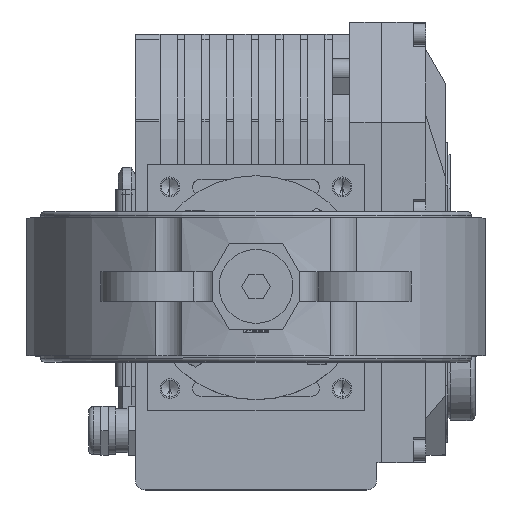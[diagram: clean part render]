
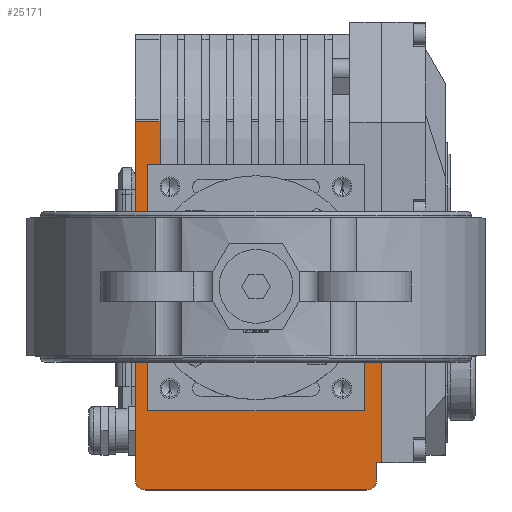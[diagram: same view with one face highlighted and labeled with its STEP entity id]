
A CAD part, top view. The second image highlights one B-rep face of the part: STEP entity #25171.
In plain terms, the highlighted planar face has unit normal (0, 0, 1) as drawn and (0, -1, 0) by its records, which use the part's own axes.
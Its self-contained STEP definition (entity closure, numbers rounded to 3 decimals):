
#18494=DIRECTION('',(1.,0.,0.));
#18495=VECTOR('',#18494,145.5);
#18496=CARTESIAN_POINT('',(-62.,-38.,0.));
#18497=LINE('',#18496,#18495);
#19344=DIRECTION('',(1.,0.,0.));
#19345=VECTOR('',#19344,7.);
#19346=CARTESIAN_POINT('',(-62.,-38.,-98.));
#19347=LINE('',#19346,#19345);
#19605=DIRECTION('',(0.,0.,1.));
#19606=VECTOR('',#19605,7.);
#19607=CARTESIAN_POINT('',(36.,-38.,-100.));
#19608=LINE('',#19607,#19606);
#19609=CARTESIAN_POINT('',(-62.,-38.,-94.));
#19610=DIRECTION('',(0.,-1.,0.));
#19611=DIRECTION('',(-1.,0.,0.));
#19612=AXIS2_PLACEMENT_3D('',#19609,#19610,#19611);
#19614=DIRECTION('',(0.,0.,-1.));
#19615=VECTOR('',#19614,90.);
#19616=CARTESIAN_POINT('',(-66.,-38.,-4.));
#19617=LINE('',#19616,#19615);
#19618=CARTESIAN_POINT('',(-62.,-38.,-4.));
#19619=DIRECTION('',(0.,-1.,0.));
#19620=DIRECTION('',(0.,0.,1.));
#19621=AXIS2_PLACEMENT_3D('',#19618,#19619,#19620);
#19623=DIRECTION('',(0.,0.,1.));
#19624=VECTOR('',#19623,10.);
#19625=CARTESIAN_POINT('',(83.5,-38.,-10.));
#19626=LINE('',#19625,#19624);
#19627=DIRECTION('',(-1.,0.,0.));
#19628=VECTOR('',#19627,17.5);
#19629=CARTESIAN_POINT('',(83.5,-38.,-10.));
#19630=LINE('',#19629,#19628);
#19631=DIRECTION('',(0.,0.,1.));
#19632=VECTOR('',#19631,5.);
#19633=CARTESIAN_POINT('',(66.,-38.,-10.));
#19634=LINE('',#19633,#19632);
#19635=DIRECTION('',(-1.,0.,0.));
#19636=VECTOR('',#19635,100.);
#19637=CARTESIAN_POINT('',(66.,-38.,-5.));
#19638=LINE('',#19637,#19636);
#19639=DIRECTION('',(0.,0.,-1.));
#19640=VECTOR('',#19639,88.);
#19641=CARTESIAN_POINT('',(-34.,-38.,-5.));
#19642=LINE('',#19641,#19640);
#19643=DIRECTION('',(1.,0.,0.));
#19644=VECTOR('',#19643,70.);
#19645=CARTESIAN_POINT('',(-34.,-38.,-93.));
#19646=LINE('',#19645,#19644);
#19695=DIRECTION('',(-1.,0.,0.));
#19696=VECTOR('',#19695,91.);
#19697=CARTESIAN_POINT('',(36.,-38.,-100.));
#19698=LINE('',#19697,#19696);
#21383=DIRECTION('',(0.,0.,-1.));
#21384=VECTOR('',#21383,2.);
#21385=CARTESIAN_POINT('',(-55.,-38.,-98.));
#21386=LINE('',#21385,#21384);
#22648=CARTESIAN_POINT('',(-55.,-38.,-100.));
#22650=VERTEX_POINT('',#22648);
#22652=CARTESIAN_POINT('',(-55.,-38.,-98.));
#22654=VERTEX_POINT('',#22652);
#22656=CARTESIAN_POINT('',(-62.,-38.,0.));
#22657=CARTESIAN_POINT('',(-66.,-38.,-4.));
#22658=VERTEX_POINT('',#22656);
#22659=VERTEX_POINT('',#22657);
#22668=CARTESIAN_POINT('',(-66.,-38.,-94.));
#22669=CARTESIAN_POINT('',(-62.,-38.,-98.));
#22670=VERTEX_POINT('',#22668);
#22671=VERTEX_POINT('',#22669);
#22696=CARTESIAN_POINT('',(83.5,-38.,0.));
#22698=VERTEX_POINT('',#22696);
#22852=CARTESIAN_POINT('',(83.5,-38.,-10.));
#22853=VERTEX_POINT('',#22852);
#22916=CARTESIAN_POINT('',(-34.,-38.,-5.));
#22917=CARTESIAN_POINT('',(-34.,-38.,-93.));
#22918=VERTEX_POINT('',#22916);
#22919=VERTEX_POINT('',#22917);
#22936=CARTESIAN_POINT('',(66.,-38.,-5.));
#22937=VERTEX_POINT('',#22936);
#22938=CARTESIAN_POINT('',(66.,-38.,-10.));
#22939=VERTEX_POINT('',#22938);
#23876=CARTESIAN_POINT('',(36.,-38.,-100.));
#23877=CARTESIAN_POINT('',(36.,-38.,-93.));
#23878=VERTEX_POINT('',#23876);
#23879=VERTEX_POINT('',#23877);
#25140=CARTESIAN_POINT('',(-66.,-38.,0.));
#25141=DIRECTION('',(0.,-1.,0.));
#25142=DIRECTION('',(1.,0.,0.));
#25143=AXIS2_PLACEMENT_3D('',#25140,#25141,#25142);
#25144=PLANE('',#25143);
#25146=ORIENTED_EDGE('',*,*,#25145,.F.);
#25148=ORIENTED_EDGE('',*,*,#25147,.T.);
#25150=ORIENTED_EDGE('',*,*,#25149,.F.);
#25151=ORIENTED_EDGE('',*,*,#24834,.F.);
#25153=ORIENTED_EDGE('',*,*,#25152,.F.);
#25155=ORIENTED_EDGE('',*,*,#25154,.F.);
#25156=ORIENTED_EDGE('',*,*,#25021,.F.);
#25157=ORIENTED_EDGE('',*,*,#23951,.T.);
#25159=ORIENTED_EDGE('',*,*,#25158,.F.);
#25160=ORIENTED_EDGE('',*,*,#24157,.T.);
#25162=ORIENTED_EDGE('',*,*,#25161,.T.);
#25164=ORIENTED_EDGE('',*,*,#25163,.T.);
#25166=ORIENTED_EDGE('',*,*,#25165,.T.);
#25168=ORIENTED_EDGE('',*,*,#25167,.T.);
#25169=EDGE_LOOP('',(#25146,#25148,#25150,#25151,#25153,#25155,#25156,#25157,
#25159,#25160,#25162,#25164,#25166,#25168));
#25170=FACE_OUTER_BOUND('',#25169,.F.);
#25171=ADVANCED_FACE('',(#25170),#25144,.T.);
#19613=CIRCLE('',#19612,4.);
#19622=CIRCLE('',#19621,4.);
#23951=EDGE_CURVE('',#22658,#22698,#18497,.T.);
#24157=EDGE_CURVE('',#22853,#22939,#19630,.T.);
#24834=EDGE_CURVE('',#22671,#22654,#19347,.T.);
#25021=EDGE_CURVE('',#22658,#22659,#19622,.T.);
#25145=EDGE_CURVE('',#23878,#23879,#19608,.T.);
#25147=EDGE_CURVE('',#23878,#22650,#19698,.T.);
#25149=EDGE_CURVE('',#22654,#22650,#21386,.T.);
#25152=EDGE_CURVE('',#22670,#22671,#19613,.T.);
#25154=EDGE_CURVE('',#22659,#22670,#19617,.T.);
#25158=EDGE_CURVE('',#22853,#22698,#19626,.T.);
#25161=EDGE_CURVE('',#22939,#22937,#19634,.T.);
#25163=EDGE_CURVE('',#22937,#22918,#19638,.T.);
#25165=EDGE_CURVE('',#22918,#22919,#19642,.T.);
#25167=EDGE_CURVE('',#22919,#23879,#19646,.T.);
